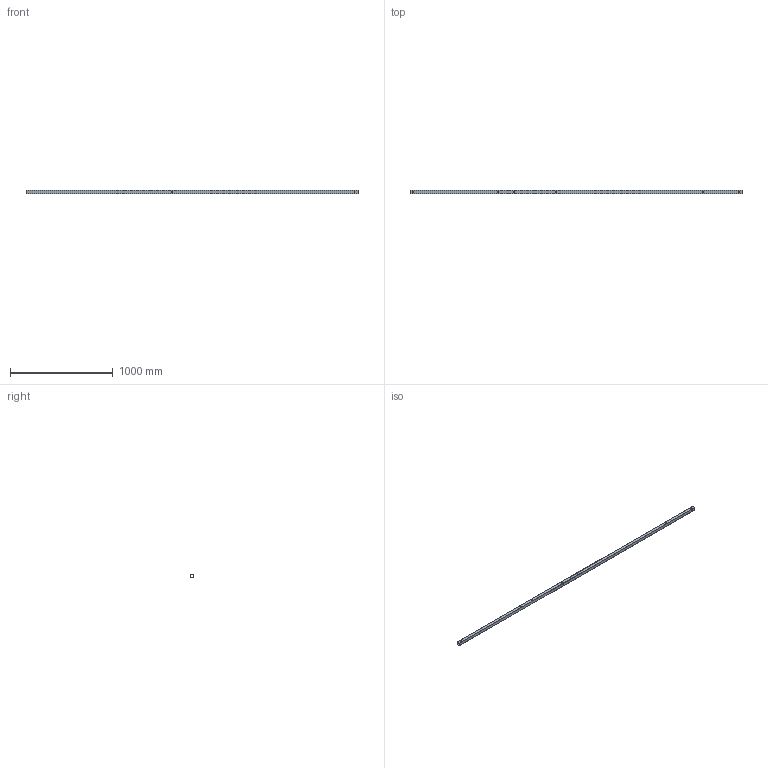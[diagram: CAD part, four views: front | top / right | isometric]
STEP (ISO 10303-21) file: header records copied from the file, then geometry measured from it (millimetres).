
FILE_DESCRIPTION(/* description */ (''),/* implementation_level */ '2;1');
FILE_NAME(/* name */ '2020TOMO-PAV-Barra5_v2.stp',/* time_stamp */ '2022-05-16T13:57:19+02:00',/* author */ (''),/* organization */ (''),/* preprocessor_version */ 'ST-DEVELOPER v18.102',/* originating_system */ 'SIEMENS PLM Software NX 2000',/* authorisation */ '');
FILE_SCHEMA (('AUTOMOTIVE_DESIGN { 1 0 10303 214 3 1 1 1 }'));
Length unit declared in the file: millimetre
Products named in the file (1): turc3144724Fyygz
Bounding box: 3230 x 30 x 30 mm (x, y, z)
Volume: 550211.1 mm3; surface area: 734714.6 mm2
Topology: 1 solids, 1 shells, 26 faces, 84 edges, 60 vertices
Faces by surface type: cylinder 16, plane 10
Full cylindrical faces by diameter (mm): 4.2 x4, 12 x12
Entity records: 907 total; most frequent: DIRECTION 150, CARTESIAN_POINT 135, ORIENTED_EDGE 112, FACE_BOUND 76, EDGE_LOOP 76, AXIS2_PLACEMENT_3D 63, EDGE_CURVE 56, VERTEX_POINT 48
